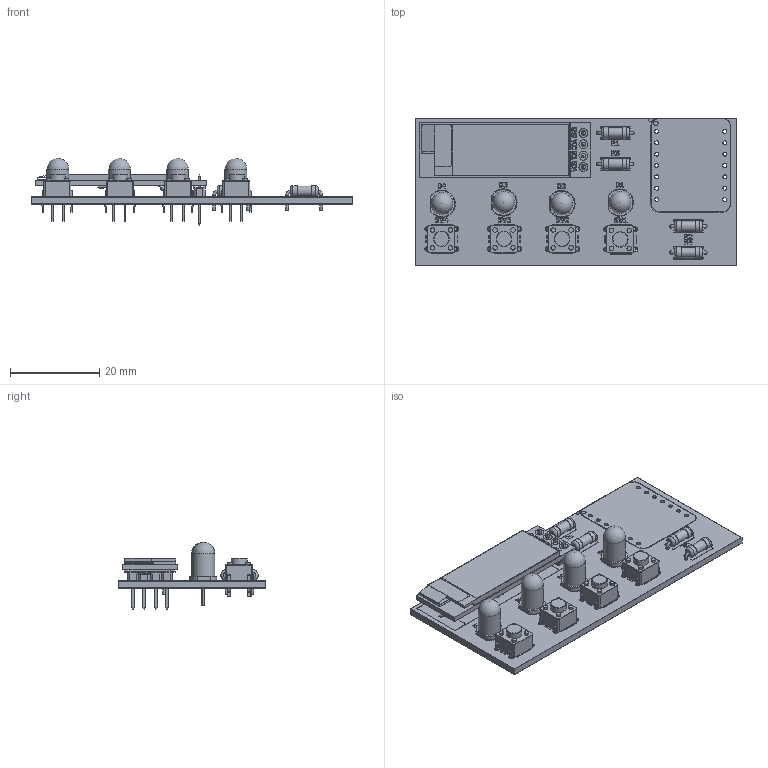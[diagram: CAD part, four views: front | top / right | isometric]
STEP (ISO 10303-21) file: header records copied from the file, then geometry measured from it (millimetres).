
FILE_DESCRIPTION(('KiCad electronic assembly'),'2;1');
FILE_NAME('Button-Blitz-PCB.step','2025-07-02T18:13:43',('Pcbnew'),( 'Kicad'),'Open CASCADE STEP processor 7.8','KiCad to STEP converter' ,'Unknown');
FILE_SCHEMA(('AUTOMOTIVE_DESIGN { 1 0 10303 214 1 1 1 1 }'));
Length unit declared in the file: millimetre
Products named in the file (13): Button-Blitz-PCB 1; R_Axial_DIN0207_L6.3mm_D2.5mm_P7.62mm_Horizontal; OLED_0.91_128x32; Pin Header 4 x 1 TH 2.54mm Pitch; RESC-0603; 2SD0601A; LED_D5.0mm; SW_PUSH_6mm_H5mm; Button-Blitz_silkscreen; Button-Blitz_soldermask; Button-Blitz_PCB; Button-Blitz-PCB 2
Assembly tree (32 placements, depth 3):
  Button-Blitz-PCB 1
    R_Axial_DIN0207_L6.3mm_D2.5mm_P7.62mm_Horizontal  x4
    OLED_0.91_128x32
      OLED_0.91_128x32
      Pin Header 4 x 1 TH 2.54mm Pitch
      RESC-0603  x13
      2SD0601A
    LED_D5.0mm  x4
    SW_PUSH_6mm_H5mm  x4
    Button-Blitz_silkscreen
    Button-Blitz_soldermask
    Button-Blitz_PCB
  Button-Blitz-PCB 2
Bounding box: 72 x 33 x 15.05 mm (x, y, z)
Volume: 5936.9 mm3; surface area: 13624.7 mm2
Topology: 65 solids, 159 shells, 1831 faces, 6641 edges, 5104 vertices
Faces by surface type: plane 1264, cylinder 433, bspline 110, torus 20, sphere 4
Full cylindrical faces by diameter (mm): 0.6 x8, 0.8 x8, 0.889 x14, 0.9 x8, 1 x24, 1.1 x16, 2 x8, 2.25 x4, 2.5 x8, 3.5 x4, 4.9 x4
Entity records: 45550 total; most frequent: CARTESIAN_POINT 10033, DIRECTION 5992, ORIENTED_EDGE 5832, EDGE_CURVE 4027, VERTEX_POINT 3400, LINE 3038, VECTOR 3038, AXIS2_PLACEMENT_3D 1477
